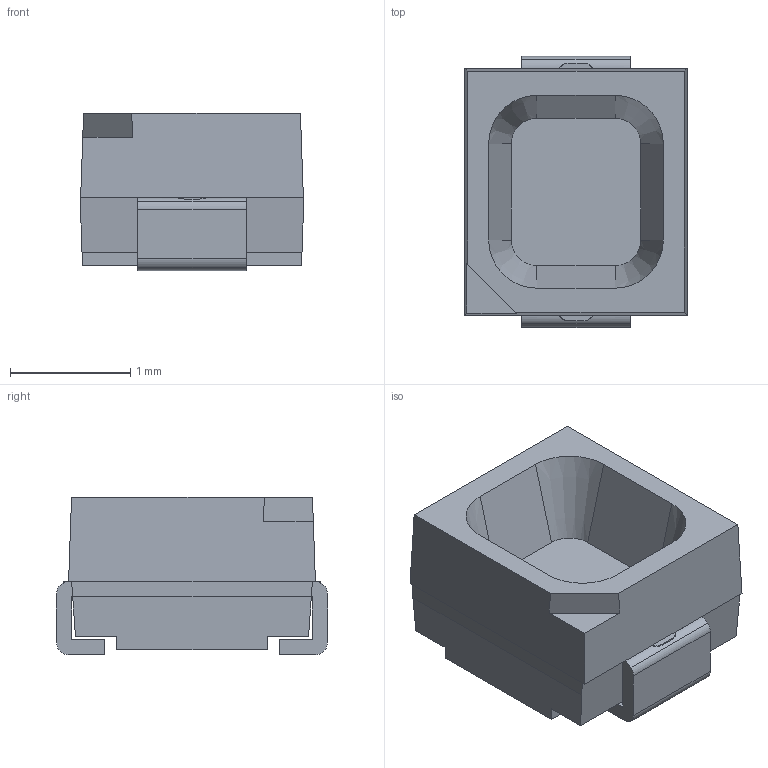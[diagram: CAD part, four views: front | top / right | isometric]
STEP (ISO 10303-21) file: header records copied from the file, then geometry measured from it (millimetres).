
FILE_DESCRIPTION(('STEP AP203'),'1');
FILE_NAME('C:/Users/chee-cheong.chan/Desktop/DFW-HZKG.stp','2019-03-27T07:41:27',(' '),(' '),'Spatial InterOp 3D',' ',' ');
FILE_SCHEMA(('CONFIG_CONTROL_DESIGN'));
Length unit declared in the file: millimetre
Products named in the file (1): 1
Bounding box: 1.85 x 2.25 x 1.3 mm (x, y, z)
Volume: 3.5 mm3; surface area: 22.9 mm2
Topology: 1 solids, 1 shells, 79 faces, 232 edges, 152 vertices
Faces by surface type: plane 59, cylinder 12, bspline 4, cone 4
Entity records: 2754 total; most frequent: CARTESIAN_POINT 596, ORIENTED_EDGE 464, DIRECTION 420, EDGE_CURVE 232, LINE 164, VECTOR 164, VERTEX_POINT 152, AXIS2_PLACEMENT_3D 128
